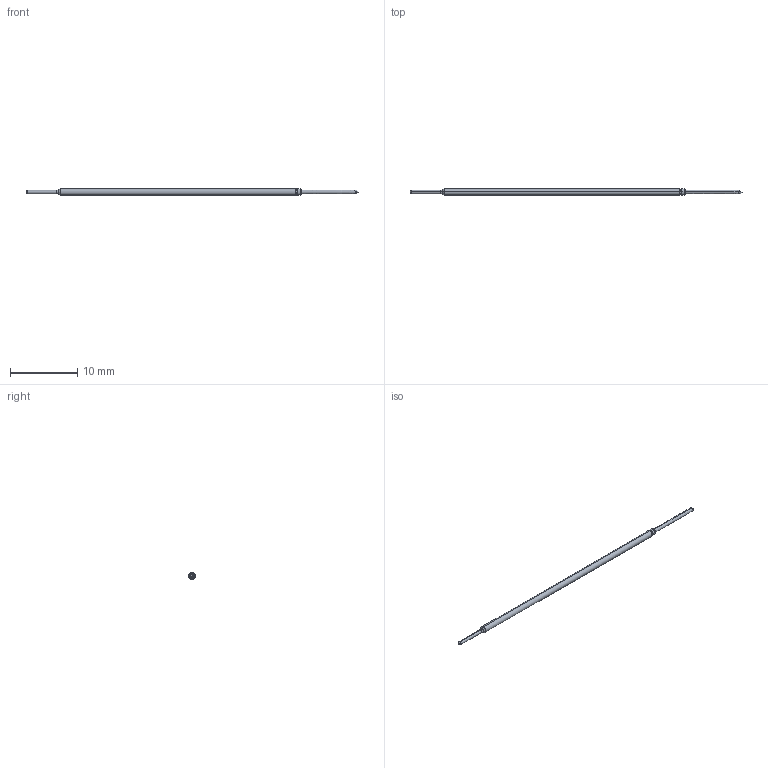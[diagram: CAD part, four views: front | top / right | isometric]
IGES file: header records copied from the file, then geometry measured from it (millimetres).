
Start section: SolidWorks IGES file using analytic representation for surfaces
Global section: file name: C:\Documents and Settings\mrumschlag\Desktop\changes\new\test\T30.IGS; native system: SolidWorks 2011; preprocessor: SolidWorks 2011; author: mrumschlag; date: 110630.142319; units: inch
Bounding box: 49.28 x 0.97 x 0.97 mm (x, y, z)
Surface area: 132.6 mm2 (no closed solid volume)
Topology: 0 solids, 0 shells, 26 faces, 162 edges, 160 vertices
Faces by surface type: revolution 14, bspline 12
